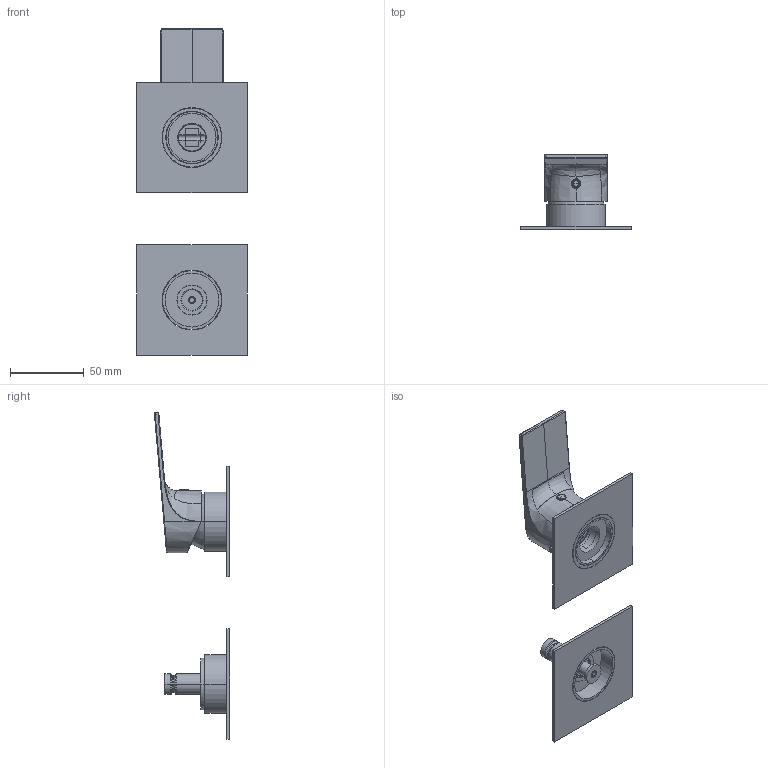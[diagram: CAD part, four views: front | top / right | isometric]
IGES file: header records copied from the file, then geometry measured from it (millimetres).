
Start section:  PTC IGES file: 3d_sw0001.igs
Global section: file name: 3d_sw0001.igs; native system: Creo Parametric by PTC Inc.; preprocessor: 2022014; author: volponeff; organization: Unknown; date: 20241009.151503; units: millimetre
Bounding box: 75 x 50.97 x 221.29 mm (x, y, z)
Surface area: 61747.6 mm2 (no closed solid volume)
Topology: 0 solids, 0 shells, 726 faces, 4042 edges, 4038 vertices
Faces by surface type: revolution 430, bspline 294, extrusion 2
